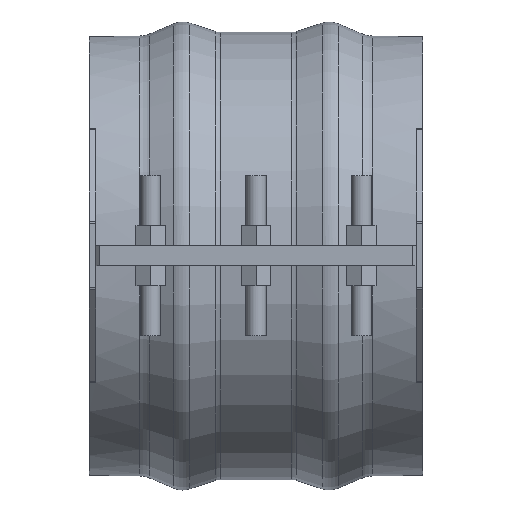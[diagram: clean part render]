
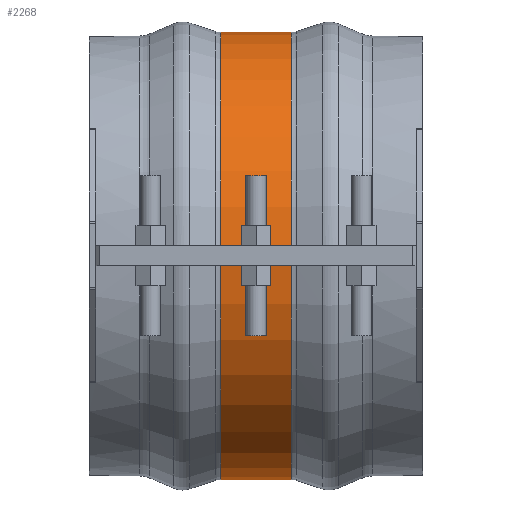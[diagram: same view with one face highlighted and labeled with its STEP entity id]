
A CAD part, top view. The second image highlights one B-rep face of the part: STEP entity #2268.
In plain terms, the highlighted cylindrical face has radius 213.027 mm (diameter 426.054 mm), a partial arc.
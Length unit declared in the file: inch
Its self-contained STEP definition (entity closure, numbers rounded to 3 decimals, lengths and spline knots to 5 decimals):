
#266=FACE_OUTER_BOUND('',#395,.T.);
#395=EDGE_LOOP('',(#1872,#1873,#1874,#1875));
#597=LINE('',#3675,#788);
#602=LINE('',#3760,#793);
#788=VECTOR('',#2968,0.3937);
#793=VECTOR('',#2977,0.3937);
#848=CIRCLE('',#2449,8.38689);
#849=CIRCLE('',#2451,8.38689);
#1054=VERTEX_POINT('',#3667);
#1055=VERTEX_POINT('',#3674);
#1066=VERTEX_POINT('',#3752);
#1067=VERTEX_POINT('',#3759);
#1333=EDGE_CURVE('',#1055,#1054,#597,.T.);
#1348=EDGE_CURVE('',#1067,#1066,#602,.T.);
#1360=EDGE_CURVE('',#1055,#1066,#848,.T.);
#1361=EDGE_CURVE('',#1054,#1067,#849,.T.);
#1872=ORIENTED_EDGE('',*,*,#1333,.T.);
#1873=ORIENTED_EDGE('',*,*,#1361,.T.);
#1874=ORIENTED_EDGE('',*,*,#1348,.T.);
#1875=ORIENTED_EDGE('',*,*,#1360,.F.);
#2053=CYLINDRICAL_SURFACE('',#2450,8.38689);
#2268=ADVANCED_FACE('',(#266),#2053,.T.);
#2449=AXIS2_PLACEMENT_3D('',#3810,#2999,#3000);
#2450=AXIS2_PLACEMENT_3D('',#3811,#3001,#3002);
#2451=AXIS2_PLACEMENT_3D('',#3812,#3003,#3004);
#2968=DIRECTION('',(-1.,0.,0.));
#2977=DIRECTION('',(1.,0.,0.));
#2999=DIRECTION('center_axis',(1.,0.,0.));
#3000=DIRECTION('ref_axis',(0.,0.,-1.));
#3001=DIRECTION('center_axis',(1.,0.,0.));
#3002=DIRECTION('ref_axis',(0.,0.,
-1.));
#3003=DIRECTION('center_axis',(1.,0.,0.));
#3004=DIRECTION('ref_axis',(0.,0.,-1.));
#3667=CARTESIAN_POINT('',(-1.31451,-0.375,8.3785));
#3674=CARTESIAN_POINT('',(1.31451,-0.375,8.3785));
#3675=CARTESIAN_POINT('',(0.,-0.375,8.3785));
#3752=CARTESIAN_POINT('',(1.31451,0.375,8.3785));
#3759=CARTESIAN_POINT('',(-1.31451,0.375,8.3785));
#3760=CARTESIAN_POINT('',(0.,0.375,8.3785));
#3810=CARTESIAN_POINT('Origin',(1.31451,0.,0.));
#3811=CARTESIAN_POINT('Origin',(0.,0.,0.));
#3812=CARTESIAN_POINT('Origin',(-1.31451,0.,
0.));
